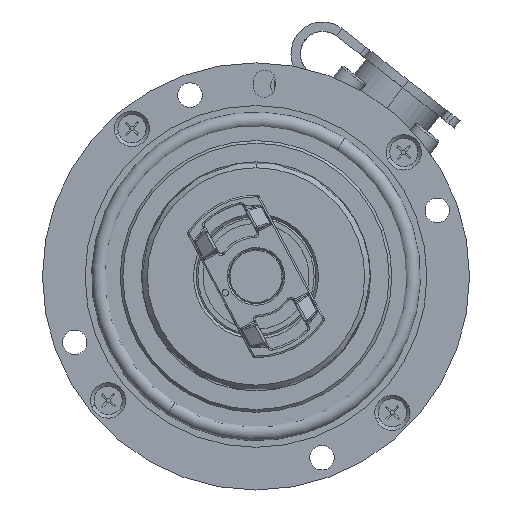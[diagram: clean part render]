
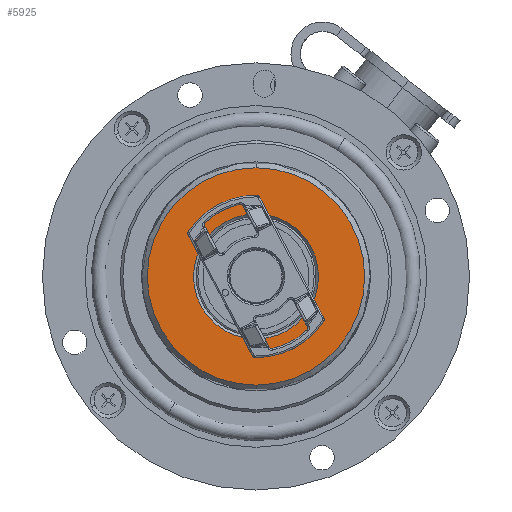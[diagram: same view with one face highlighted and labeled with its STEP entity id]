
A CAD part, front view. The second image highlights one B-rep face of the part: STEP entity #5925.
In plain terms, the highlighted planar face has unit normal (0, -1, 0).
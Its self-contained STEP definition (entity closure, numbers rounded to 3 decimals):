
#398 = CARTESIAN_POINT ( 'NONE',  ( 0., -8.281, 0. ) ) ;
#918 = EDGE_LOOP ( 'NONE', ( #19630, #14946 ) ) ;
#1000 = EDGE_CURVE ( 'NONE', #8353, #16706, #22566, .T. ) ;
#1397 = VERTEX_POINT ( 'NONE', #19073 ) ;
#1477 = EDGE_CURVE ( 'NONE', #1397, #5148, #21785, .T. ) ;
#1635 = AXIS2_PLACEMENT_3D ( 'NONE', #11155, #23534, #8989 ) ;
#1899 = CIRCLE ( 'NONE', #26637, 11.5 ) ;
#1930 = EDGE_CURVE ( 'NONE', #5148, #1397, #1899, .T. ) ;
#4637 = DIRECTION ( 'NONE',  ( 0., 0., 1. ) ) ;
#4736 = CARTESIAN_POINT ( 'NONE',  ( 0., -8.281, 0. ) ) ;
#5148 = VERTEX_POINT ( 'NONE', #14691 ) ;
#5925 = ADVANCED_FACE ( 'NONE', ( #27223, #28311 ), #13427, .F. ) ;
#6330 = EDGE_LOOP ( 'NONE', ( #24374, #20463 ) ) ;
#8353 = VERTEX_POINT ( 'NONE', #30125 ) ;
#8414 = AXIS2_PLACEMENT_3D ( 'NONE', #4736, #18749, #4637 ) ;
#8989 = DIRECTION ( 'NONE',  ( 0., 0., 1. ) ) ;
#11155 = CARTESIAN_POINT ( 'NONE',  ( 11., -8.281, 0. ) ) ;
#13427 = PLANE ( 'NONE',  #1635 ) ;
#14691 = CARTESIAN_POINT ( 'NONE',  ( 0., -8.281, 11.5 ) ) ;
#14803 = DIRECTION ( 'NONE',  ( 0., 0., 1. ) ) ;
#14946 = ORIENTED_EDGE ( 'NONE', *, *, #1930, .T. ) ;
#16706 = VERTEX_POINT ( 'NONE', #24174 ) ;
#17826 = DIRECTION ( 'NONE',  ( 0., -1., 0. ) ) ;
#18749 = DIRECTION ( 'NONE',  ( 0., 1., 0. ) ) ;
#19073 = CARTESIAN_POINT ( 'NONE',  ( 0., -8.281, -11.5 ) ) ;
#19630 = ORIENTED_EDGE ( 'NONE', *, *, #1477, .T. ) ;
#20276 = CARTESIAN_POINT ( 'NONE',  ( 0., -8.281, 0. ) ) ;
#20380 = DIRECTION ( 'NONE',  ( 0., 0., 1. ) ) ;
#20463 = ORIENTED_EDGE ( 'NONE', *, *, #1000, .T. ) ;
#20750 = DIRECTION ( 'NONE',  ( 0., -1., 0. ) ) ;
#21611 = EDGE_CURVE ( 'NONE', #16706, #8353, #28108, .T. ) ;
#21628 = AXIS2_PLACEMENT_3D ( 'NONE', #20276, #17826, #20380 ) ;
#21785 = CIRCLE ( 'NONE', #8414, 11.5 ) ;
#22566 = CIRCLE ( 'NONE', #23062, 20. ) ;
#23062 = AXIS2_PLACEMENT_3D ( 'NONE', #25318, #20750, #25515 ) ;
#23534 = DIRECTION ( 'NONE',  ( 0., 1., 0. ) ) ;
#24174 = CARTESIAN_POINT ( 'NONE',  ( 0., -8.281, 20. ) ) ;
#24199 = DIRECTION ( 'NONE',  ( 0., 1., 0. ) ) ;
#24374 = ORIENTED_EDGE ( 'NONE', *, *, #21611, .T. ) ;
#25318 = CARTESIAN_POINT ( 'NONE',  ( 0., -8.281, 0. ) ) ;
#25515 = DIRECTION ( 'NONE',  ( 0., 0., 1. ) ) ;
#26637 = AXIS2_PLACEMENT_3D ( 'NONE', #398, #24199, #14803 ) ;
#27223 = FACE_OUTER_BOUND ( 'NONE', #6330, .T. ) ;
#28108 = CIRCLE ( 'NONE', #21628, 20. ) ;
#28311 = FACE_BOUND ( 'NONE', #918, .T. ) ;
#30125 = CARTESIAN_POINT ( 'NONE',  ( 0., -8.281, -20. ) ) ;
